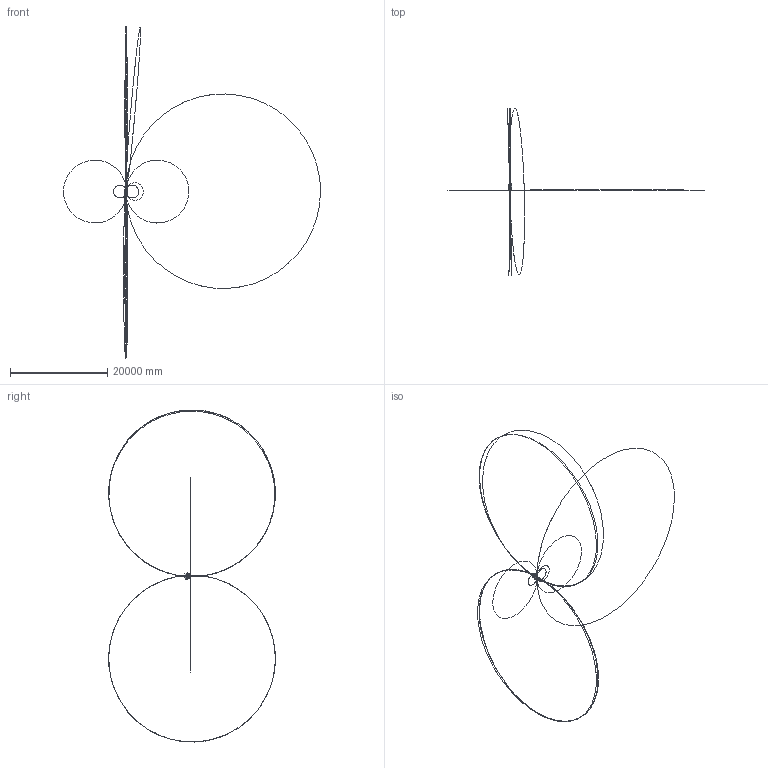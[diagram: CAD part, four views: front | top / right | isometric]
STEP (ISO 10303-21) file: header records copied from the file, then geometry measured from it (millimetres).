
FILE_DESCRIPTION((''),'2;1');
FILE_NAME('PK_SK2_COMPLETE_ASM_ASM','2007-10-26T',('wongch01'),(''),'PRO/ENGINEER BY PARAMETRIC TECHNOLOGY CORPORATION, 2007160','PRO/ENGINEER BY PARAMETRIC TECHNOLOGY CORPORATION, 2007160','');
FILE_SCHEMA(('CONFIG_CONTROL_DESIGN'));
Products named in the file (2): _PK_SK2_COMPLETE_ASM; PK_SK2_COMPLETE_ASM_ASM
Assembly tree (1 placements, depth 2):
  PK_SK2_COMPLETE_ASM_ASM
    _PK_SK2_COMPLETE_ASM
Bounding box: 52843.36 x 34269.89 x 68266.17 mm (x, y, z)
Surface area: 24894926.1 mm2 (no closed solid volume)
Topology: 0 solids, 0 shells, 3845 faces, 24909 edges, 24753 vertices
Faces by surface type: bspline 3580, torus 238, sphere 27
Entity records: 383028 total; most frequent: CARTESIAN_POINT 166627, DIRECTION 31475, TRIMMED_CURVE 28902, VECTOR 26865, LINE 26865, DEFINITIONAL_REPRESENTATION 24579, PCURVE 24579, COMPOSITE_CURVE_SEGMENT 24579
